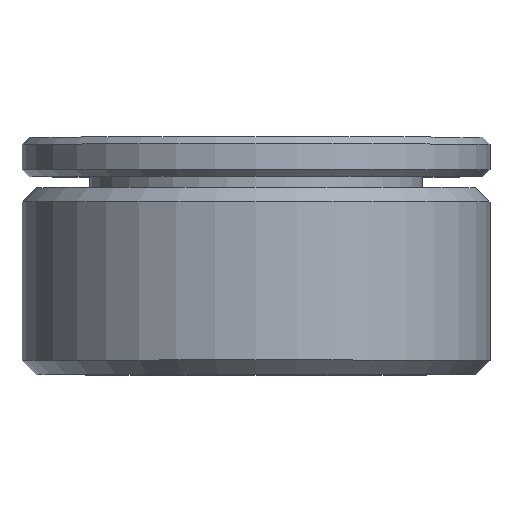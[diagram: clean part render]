
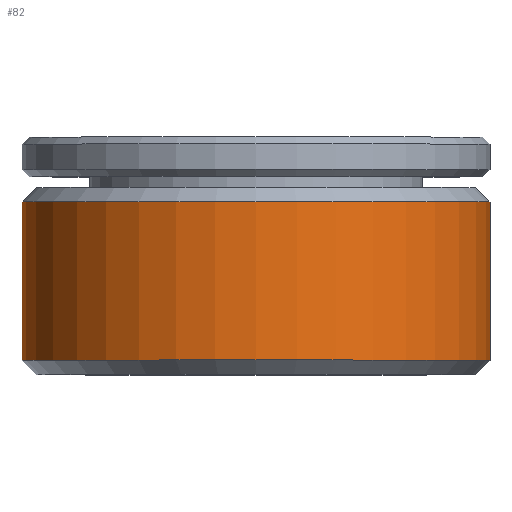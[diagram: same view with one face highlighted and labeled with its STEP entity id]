
A CAD part, top view. The second image highlights one B-rep face of the part: STEP entity #82.
In plain terms, the highlighted cylindrical face has radius 20 mm (diameter 40 mm), a full revolution.
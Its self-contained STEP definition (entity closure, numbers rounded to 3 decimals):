
#82 = ADVANCED_FACE( '', ( #120, #121 ), #122, .T. );
#120 = FACE_OUTER_BOUND( '', #189, .T. );
#121 = FACE_OUTER_BOUND( '', #190, .T. );
#122 = CYLINDRICAL_SURFACE( '', #191, 20. );
#189 = EDGE_LOOP( '', ( #272 ) );
#190 = EDGE_LOOP( '', ( #273 ) );
#191 = AXIS2_PLACEMENT_3D( '', #274, #275, #276 );
#272 = ORIENTED_EDGE( '', *, *, #360, .T. );
#273 = ORIENTED_EDGE( '', *, *, #359, .F. );
#274 = CARTESIAN_POINT( '', ( 0., 0., 0. ) );
#275 = DIRECTION( '', ( 0., 1., 0. ) );
#276 = DIRECTION( '', ( 0., 0., -1. ) );
#359 = EDGE_CURVE( '', #389, #389, #390, .T. );
#360 = EDGE_CURVE( '', #391, #391, #392, .T. );
#389 = VERTEX_POINT( '', #435 );
#390 = CIRCLE( '', #436, 20. );
#391 = VERTEX_POINT( '', #437 );
#392 = CIRCLE( '', #438, 20. );
#435 = CARTESIAN_POINT( '', ( 0., 1.23, -20. ) );
#436 = AXIS2_PLACEMENT_3D( '', #488, #489, #490 );
#437 = CARTESIAN_POINT( '', ( 0., 14.764, -20. ) );
#438 = AXIS2_PLACEMENT_3D( '', #491, #492, #493 );
#488 = CARTESIAN_POINT( '', ( 0., 1.23, 0. ) );
#489 = DIRECTION( '', ( 0., -1., 0. ) );
#490 = DIRECTION( '', ( 0., 0., -1. ) );
#491 = CARTESIAN_POINT( '', ( 0., 14.764, 0. ) );
#492 = DIRECTION( '', ( 0., -1., 0. ) );
#493 = DIRECTION( '', ( 0., 0., -1. ) );
